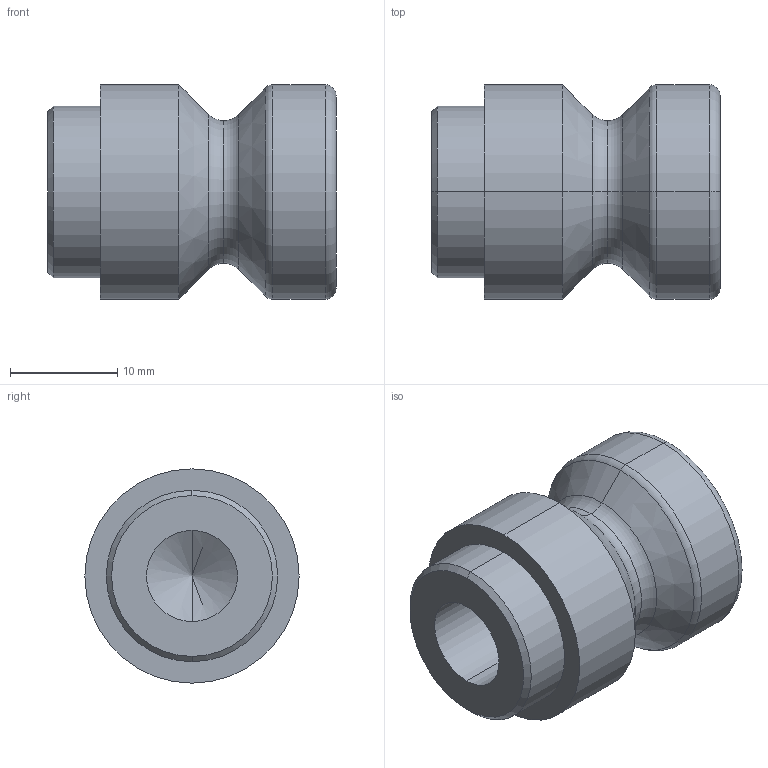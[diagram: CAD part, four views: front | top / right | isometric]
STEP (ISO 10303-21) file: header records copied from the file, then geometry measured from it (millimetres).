
FILE_DESCRIPTION (( 'STEP AP203' ), '1' );
FILE_NAME ('45570.STEP', '2012-11-16T06:40:35', ( '' ), ( '' ), 'SwSTEP 2.0', 'SolidWorks 2011', '' );
FILE_SCHEMA (( 'CONFIG_CONTROL_DESIGN' ));
Length unit declared in the file: millimetre
Products named in the file (1): 45570
Bounding box: 26.9 x 20 x 20 mm (x, y, z)
Volume: 5961 mm3; surface area: 2712.7 mm2
Topology: 1 solids, 1 shells, 34 faces, 72 edges, 41 vertices
Faces by surface type: plane 10, torus 8, cone 8, cylinder 8
Entity records: 971 total; most frequent: DIRECTION 176, CARTESIAN_POINT 146, ORIENTED_EDGE 140, AXIS2_PLACEMENT_3D 71, EDGE_CURVE 70, VERTEX_POINT 41, EDGE_LOOP 37, CIRCLE 36
